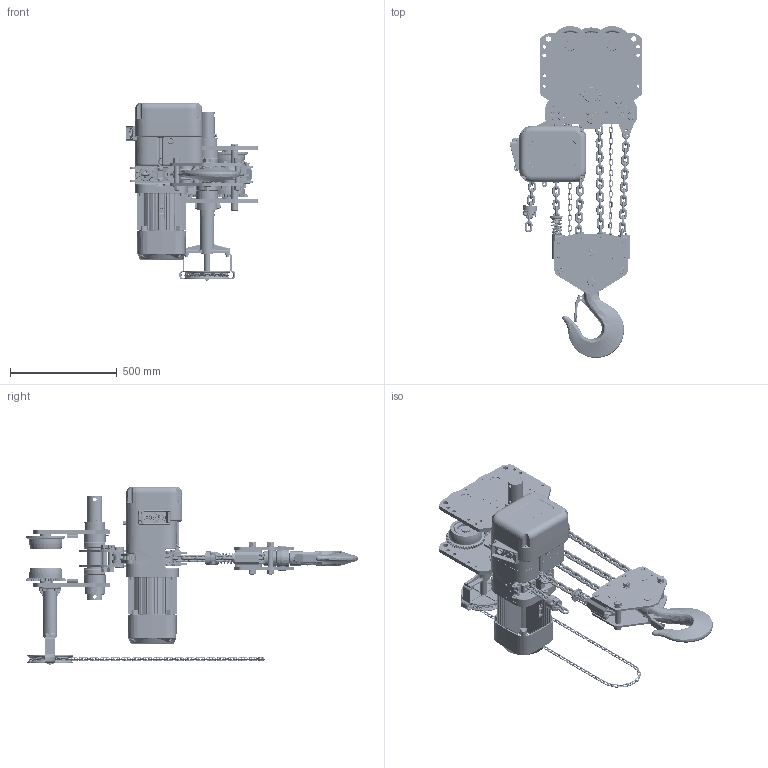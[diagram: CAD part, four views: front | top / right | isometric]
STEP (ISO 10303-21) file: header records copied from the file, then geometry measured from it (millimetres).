
FILE_DESCRIPTION (( 'STEP AP214' ), '1' );
FILE_NAME ('NER2G100L.STEP', '2026-08-05T14:09:27', ( '' ), ( '' ), 'SwSTEP 2.0', 'SolidWorks 2026', '' );
FILE_SCHEMA (( 'AUTOMOTIVE_DESIGN' ));
Length unit declared in the file: inch
Products named in the file (115): E6SE075S90663; ER2FS9101; ER2CS9511; ER1HS90091; external tooth lock washer_am_B18.21.2M-External Tooth Lock Washers_AM6; MS104075; 6308Z Bearing; 9091254_9091254; T3GA1005111; ER2IS50041; ER2HS90051; E6SE075S90101; ER2FS9118; MS117075; basic internal retaining ring_am_J1SR000-00090; ER2FS9337; ER2IS1121; ES558003; 9091255_9091255; T3GA1009118; flat washer narrow_am_9012515; ER2FS9117; MS116075; 9000506; ER2HS50051; ER2IS90341; ER1EM9053; E6SE075S90671; ER2FS9338; GTF100_7" FLANGE; T3GA1009111; E6SE075S90081; M6SE100S9113; LCER2025NP; ER2BHM1QS9A6; LCER2025 NP (10T L); split pin (metric) as_9009423; ER2IS90351; ES127005S; socket head cap screw_am_9091295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
Assembly tree (432 placements, depth 4):
  NER2G100L
    ER2HS50051
      ER2HS90061
      ER1HS90161  x2
      ER2HS90051
    ER2IS50041
      ER2IS90041
      MAKESP-578293-03  x2
    ER2IS50031
      ER2IS90031
      ER1HS90091  x2
    E7SE075S90071  x4
    E6SE075S90081  x4
    ER1IL90171
    NER2025S_For Large Cap
      ER2FS9104_ER2FS9104
      ER2FS9103
      ER2FS9101
      ER2FS9105
      ER2ES9107_ER2ES9107
      ER2FS9331
      ER2FS9338
      ER2FS9337
      ER2CS9357
      single coil rectangular section spring washer_bsi_9012711  x4
      socket head cap screw_am_9091274  x4
      9091255_9091255  x4
      90912116_90912116  x4
      external tooth lock washer_am_B18.21.2M-External Tooth Lock Washers_AM6  x4
      9091254_9091254  x4
      ES127005S
      ER1BS9135
      E3S112003
      E3S111003
      ER2EI4511
        ER2CS9511
        MS561010  x8
        ER2EI2523
        ER2EI2564
        ES558003  x8
      ER2FS6121
      ER2FS6122
      ER1EM9053
      ER1ES1041
      LCER2025 NP (SHAPED 2)
        LCER2025NP  x12
      ER2BHM20I9A5
      ER2BHM25I9A6
      ER2FS9117
      ER2FS9118
      ER2BHM1QS9A6
    E6SE075S90531
    ER1HS90561  x3
    single coil rectangular section spring washer_bsi_9012711  x6
    socket head cap screw_am_9091271  x6
    spring lock washer_2_jis_9012717  x8
    hex nut style 1_am_9093445  x8
    GTF100_7" FLANGE
      T3GB1005112
        T3GA1009112
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Bounding box: 622 x 1556.28 x 837.37 mm (x, y, z)
Volume: 51817892.9 mm3; surface area: 6432538.6 mm2
Topology: 432 solids, 460 shells, 14647 faces, 37081 edges, 23180 vertices
Faces by surface type: cylinder 5372, plane 4719, torus 2079, bspline 1140, cone 1040, sphere 297
Entity records: 309039 total; most frequent: CARTESIAN_POINT 113997, ORIENTED_EDGE 39526, DIRECTION 39081, EDGE_CURVE 19767, AXIS2_PLACEMENT_3D 15362, VERTEX_POINT 12651, EDGE_LOOP 8528, LINE 8357
